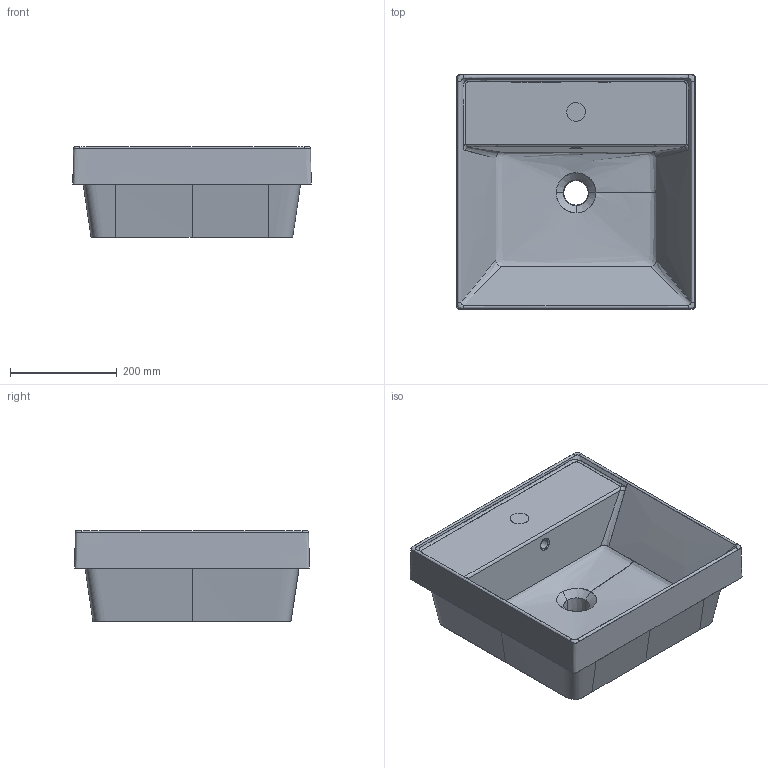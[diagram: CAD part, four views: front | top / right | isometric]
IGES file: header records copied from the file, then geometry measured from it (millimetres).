
Global section: file name: C:\Users\Massimiliano\Desktop\Teorema2.0\TEOREMA 2.0 lavabo 45x44 art.5108\TEOREMA 2.0 lavabo 45x44 art. 5108.igs; native system: Rhinoceros ( Mar 28 2013 ); preprocessor: Trout Lake IGES 012 Mar 28 2013; date: 171201.085917; units: millimetre
Bounding box: 447.02 x 440.27 x 170.02 mm (x, y, z)
Surface area: 833640.4 mm2 (no closed solid volume)
Topology: 0 solids, 0 shells, 143 faces, 2368 edges, 2362 vertices
Faces by surface type: bspline 143
